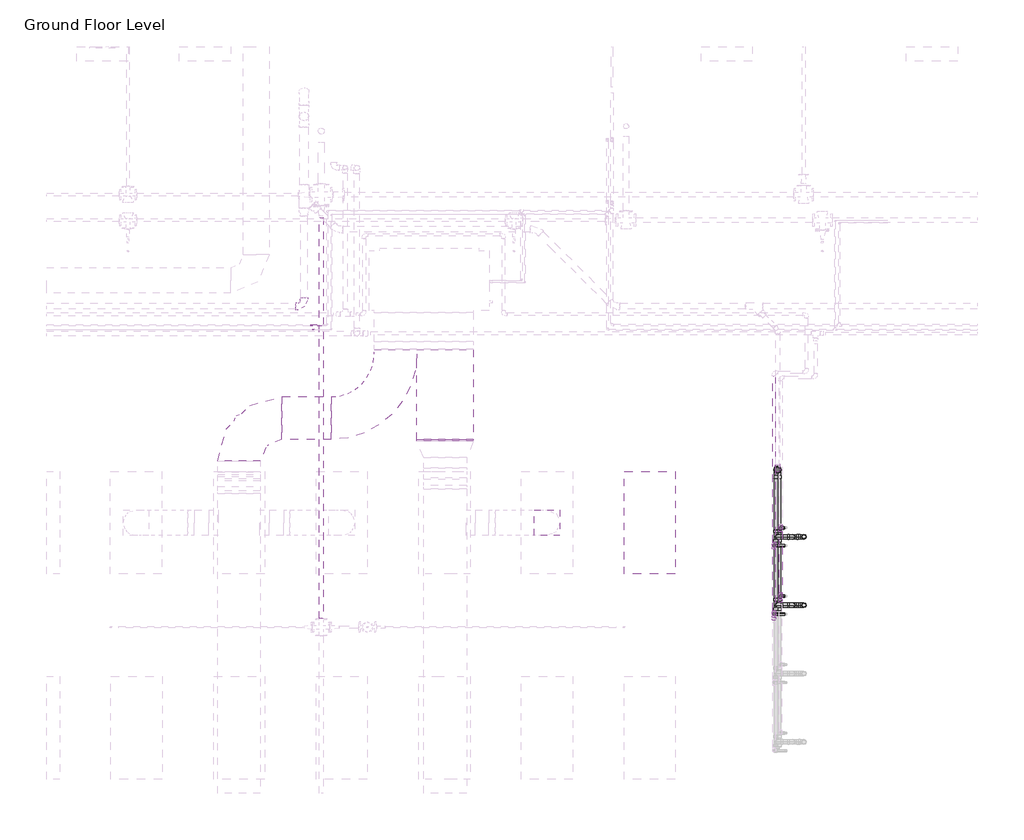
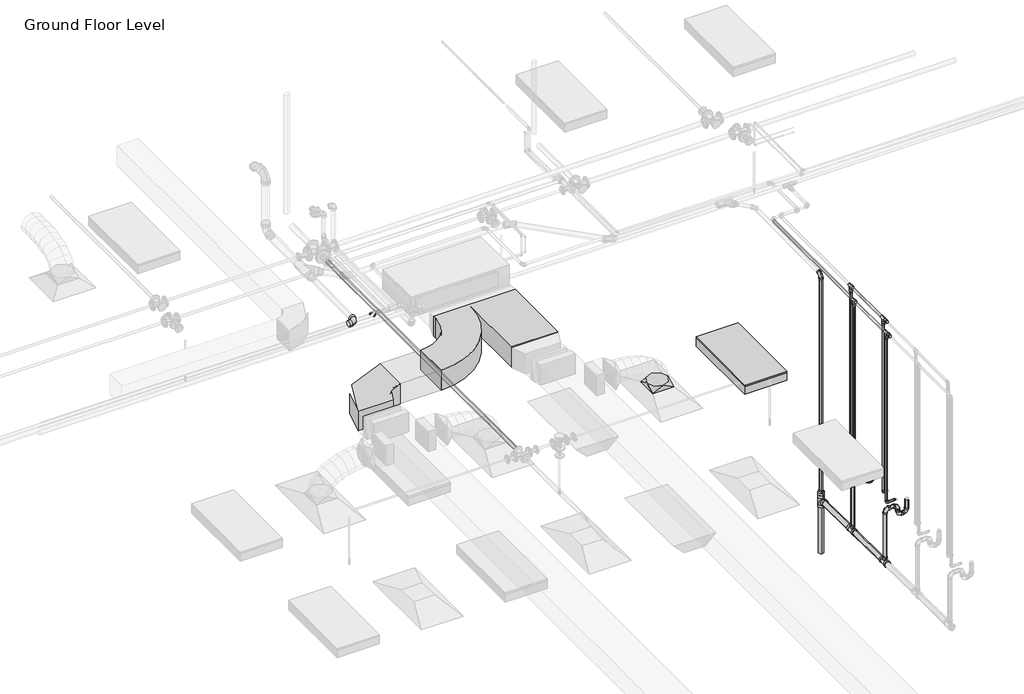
# One storey, part 51 of 72: 32 pipe fittings, 30 pipe segments, 3 duct fittings, 2 duct segments, 1 light fixture.
"""IFC4 building model written with IfcOpenShell, lengths in millimetres."""

from ifc_helpers import new_model, si_unit, point, frame, frame_2d, origin, place, context, project, spatial, polyline, circle_curve, trimmed, segment, composite_curve, outline, extrude, transform, mapped, element, save
from components import m_rectangular_elbow_radius_1_w_abe20169, m_rectangular_wye_smooth_radius_standard_737174da, m_rectangular_to_round_transition_angle_45_degree_641efff0, m_troffer_light_parabolic_rectangular1_0600x1200mm_4_lamp_86473d4a, m_bend_pvc_sch_40_dwv_standard_1e7bdcc1, m_bend_pvc_sch_40_dwv_standard_738aab8b, m_bend_pvc_sch_40_dwv_standard_33e831c1, m_elbow_generic_standard_2a704253, m_elbow_generic_standard_65e6739a, m_reducer_pvc_sch_40_dwv_standard_d6f2da47, m_tee_reducing_sanitary_pvc_sch_40_dwv_standard_21d2848c, m_tee_reducing_sanitary_pvc_sch_40_dwv_standard_b574f8c1, standard_b266ab3f, standard_72b35c3b, standard_e954f56a, standard_e5aa6446

model = new_model("IFC4")

# Units and contexts
model_context = context("Model", 3, world=origin())
ifc_project = project(units=[si_unit("LENGTHUNIT", "METRE", prefix="MILLI")], contexts=[model_context])

# Site, building, storey
site = spatial("IfcSite", under=ifc_project)
building = spatial("IfcBuilding", under=site)
storey = spatial("IfcBuildingStorey", under=building, Name="Ground Floor Level", Elevation=900.0)

# Duct fittings
placement = place(None, origin())
m_rectangular_elbow_radius_1_w_shape = m_rectangular_elbow_radius_1_w_abe20169(model_context)
element("IfcDuctFitting", 1, ObjectType="M_Rectangular Elbow - Radius : 1 W", at=placement, inside=storey, context=model_context, shape_type="MappedRepresentation", body=[
    mapped(m_rectangular_elbow_radius_1_w_shape, transform((-6939.6912607, 12459.4153535, 4107.1399598), x_axis=(-0.9999999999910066, 0.0, 4.2410714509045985e-06), y_axis=(0.0, -1.0, 0.0), z_axis=(4.2410714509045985e-06, 0.0, 0.9999999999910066))),
])
m_rectangular_wye_smooth_radius_standard_shape = m_rectangular_wye_smooth_radius_standard_737174da(model_context)
element("IfcDuctFitting", 2, ObjectType="M_Rectangular Wye - Smooth Radius : Standard", at=placement, inside=storey, context=model_context, shape_type="MappedRepresentation", body=[
    mapped(m_rectangular_wye_smooth_radius_standard_shape, transform((-4653.6910789, 12459.4153535, 4107.1353795), x_axis=(0.0, -0.9999999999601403, -8.928571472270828e-06), y_axis=(1.0, 0.0, 0.0), z_axis=(0.0, -8.928571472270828e-06, 0.9999999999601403))),
])
m_rectangular_to_round_transition_angle_45_degree_shape = m_rectangular_to_round_transition_angle_45_degree_641efff0(model_context)
element("IfcDuctFitting", 3, ObjectType="M_Rectangular to Round Transition - Angle : 45 Degree", at=placement, inside=storey, context=model_context, shape_type="MappedRepresentation", body=[
    mapped(m_rectangular_to_round_transition_angle_45_degree_shape, transform((-3337.2327605, 11235.2153534, 3751.6), x_axis=(0.0, 0.0, 1.0), y_axis=(-1.0, 0.0, 0.0), z_axis=(0.0, -1.0, 0.0))),
])

# Duct segments
element("IfcDuctSegment", 4, ObjectType="Radius Elbows / Taps", at=placement, inside=storey, context=model_context, shape_type="SweptSolid", body=[
    extrude(outline(polyline([(-4859.6910789, 12209.4153535), (-4197.6910789, 12209.4153535), (-4197.6910789, 12192.414605), (-4859.6910789, 12192.414605), (-4859.6910789, 12209.4153535)])), frame((0.0, 0.0, 3957.1331473), z_axis=(0.0, 0.0, 1.0), x_axis=(1.0, 0.0, 0.0)), (0.0, 0.0, 1.0), 300.0),
])
element("IfcDuctSegment", 5, ObjectType="Radius Elbows / Taps", at=placement, inside=storey, context=model_context, shape_type="SweptSolid", body=[
    extrude(outline(polyline([(-5859.6910789, 12709.4153535), (-5859.6910789, 12209.4153535), (-6439.6912607, 12209.4153535), (-6439.6912607, 12709.4153535), (-5859.6910789, 12709.4153535)])), frame((0.0, 0.0, 3957.1353795), z_axis=(0.0, 0.0, 1.0), x_axis=(1.0, 0.0, 0.0)), (0.0, 0.0, 1.0), 300.0),
])

# Light fixture
m_troffer_light_parabolic_rectangular1_0600x1200mm_4_lamp_shape = m_troffer_light_parabolic_rectangular1_0600x1200mm_4_lamp_86473d4a(model_context)
element("IfcLightFixture", 6, ObjectType="M_Troffer Light - Parabolic Rectangular1 : 0600x1200mm(4 Lamp) - 277V 2", at=placement, inside=storey, context=model_context, shape_type="MappedRepresentation", body=[
    mapped(m_troffer_light_parabolic_rectangular1_0600x1200mm_4_lamp_shape, transform((-2196.6986926, 11253.918855, 3650.0), x_axis=(0.0, 1.0, 0.0), y_axis=(-1.0, 0.0, 0.0), z_axis=(0.0, 0.0, 1.0))),
])

# Pipe fittings
m_bend_pvc_sch_40_dwv_standard_shape = m_bend_pvc_sch_40_dwv_standard_1e7bdcc1(model_context)
element("IfcPipeFitting", 7, ObjectType="M_Bend - PVC - Sch 40 - DWV : Standard", at=placement, inside=storey, context=model_context, shape_type="MappedRepresentation", body=[
    mapped(m_bend_pvc_sch_40_dwv_standard_shape, transform((-642.2357232, 11855.5503966, 4093.773994), x_axis=(0.0, 0.0, 1.0), y_axis=(0.0, 1.0, 0.0), z_axis=(-1.0, 0.0, 0.0))),
])
m_bend_pvc_sch_40_dwv_standard_2_shape = m_bend_pvc_sch_40_dwv_standard_738aab8b(model_context)
element("IfcPipeFitting", 8, ObjectType="M_Bend - PVC - Sch 40 - DWV : Standard", at=placement, inside=storey, context=model_context, shape_type="MappedRepresentation", body=[
    mapped(m_bend_pvc_sch_40_dwv_standard_2_shape, transform((-463.6645494, 10271.1979139, 1370.0), x_axis=(-1.0, 0.0, 0.0), y_axis=(0.0, 0.0, 1.0), z_axis=(0.0, 1.0, 0.0))),
])
element("IfcPipeFitting", 9, ObjectType="M_Bend - PVC - Sch 40 - DWV : Standard", at=placement, inside=storey, context=model_context, shape_type="MappedRepresentation", body=[
    mapped(m_bend_pvc_sch_40_dwv_standard_2_shape, transform((-463.6645494, 10271.1979139, 1510.0), x_axis=(0.0, 0.0, 1.0), y_axis=(-1.0, 0.0, 0.0), z_axis=(0.0, -1.0, 0.0))),
])
element("IfcPipeFitting", 10, ObjectType="M_Bend - PVC - Sch 40 - DWV : Standard", at=placement, inside=storey, context=model_context, shape_type="MappedRepresentation", body=[
    mapped(m_bend_pvc_sch_40_dwv_standard_2_shape, transform((-463.6645494, 11071.1979139, 1370.0), x_axis=(-1.0, 0.0, 0.0), y_axis=(0.0, 0.0, 1.0), z_axis=(0.0, 1.0, 0.0))),
])
element("IfcPipeFitting", 11, ObjectType="M_Bend - PVC - Sch 40 - DWV : Standard", at=placement, inside=storey, context=model_context, shape_type="MappedRepresentation", body=[
    mapped(m_bend_pvc_sch_40_dwv_standard_2_shape, transform((-463.6645494, 11071.1979139, 1510.0), x_axis=(0.0, 0.0, 1.0), y_axis=(-1.0, 0.0, 0.0), z_axis=(0.0, -1.0, 0.0))),
])
element("IfcPipeFitting", 12, ObjectType="M_Bend - PVC - Sch 40 - DWV : Standard", at=placement, inside=storey, context=model_context, shape_type="MappedRepresentation", body=[
    mapped(m_bend_pvc_sch_40_dwv_standard_2_shape, transform((-333.6645494, 10271.1979139, 1370.0), x_axis=(1.0, 0.0, 0.0), y_axis=(0.0, 0.0, 1.0), z_axis=(0.0, -1.0, 0.0))),
])
element("IfcPipeFitting", 13, ObjectType="M_Bend - PVC - Sch 40 - DWV : Standard", at=placement, inside=storey, context=model_context, shape_type="MappedRepresentation", body=[
    mapped(m_bend_pvc_sch_40_dwv_standard_2_shape, transform((-333.6645494, 11071.1979139, 1370.0), x_axis=(1.0, 0.0, 0.0), y_axis=(0.0, 0.0, 1.0), z_axis=(0.0, -1.0, 0.0))),
])
element("IfcPipeFitting", 14, ObjectType="M_Bend - PVC - Sch 40 - DWV : Standard", at=placement, inside=storey, context=model_context, shape_type="MappedRepresentation", body=[
    mapped(m_bend_pvc_sch_40_dwv_standard_2_shape, transform((-642.2301761, 10271.1979139, 1510.0), x_axis=(-1.0, 0.0, 0.0), y_axis=(0.0, 0.0, -1.0), z_axis=(0.0, -1.0, 0.0))),
])
element("IfcPipeFitting", 15, ObjectType="M_Bend - PVC - Sch 40 - DWV : Standard", at=placement, inside=storey, context=model_context, shape_type="MappedRepresentation", body=[
    mapped(m_bend_pvc_sch_40_dwv_standard_2_shape, transform((-642.2301761, 11071.1979139, 1510.0), x_axis=(-1.0, 0.0, 0.0), y_axis=(0.0, 0.0, -1.0), z_axis=(0.0, -1.0, 0.0))),
])
m_bend_pvc_sch_40_dwv_standard_3_shape = m_bend_pvc_sch_40_dwv_standard_33e831c1(model_context)
element("IfcPipeFitting", 16, ObjectType="M_Bend - PVC - Sch 40 - DWV : Standard", at=placement, inside=storey, context=model_context, shape_type="MappedRepresentation", body=[
    mapped(m_bend_pvc_sch_40_dwv_standard_3_shape, transform((-6179.174125, 13768.8048932, 4156.9282537), x_axis=(0.9999500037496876, 0.0, 0.00999950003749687), y_axis=(-9.998500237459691e-05, 0.999950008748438, 0.009998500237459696), z_axis=(-0.009999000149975, -0.009999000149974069, 0.9999000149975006))),
])
m_elbow_generic_standard_shape = m_elbow_generic_standard_2a704253(model_context)
element("IfcPipeFitting", 17, ObjectType="M_Elbow - Generic : Standard", at=placement, inside=storey, context=model_context, shape_type="MappedRepresentation", body=[
    mapped(m_elbow_generic_standard_shape, transform((-6064.340603, 13494.0185138, 4393.0), x_axis=(-1.0, 0.0, 0.0), y_axis=(0.0, 0.0, -1.0), z_axis=(0.0, -1.0, 0.0))),
])
element("IfcPipeFitting", 18, ObjectType="M_Elbow - Generic : Standard", at=placement, inside=storey, context=model_context, shape_type="MappedRepresentation", body=[
    mapped(m_elbow_generic_standard_shape, transform((-6064.340603, 13494.0185138, 4365.0), x_axis=(0.0, 0.0, -1.0), y_axis=(-1.0, 0.0, 0.0), z_axis=(0.0, 1.0, 0.0))),
])
m_elbow_generic_standard_2_shape = m_elbow_generic_standard_65e6739a(model_context)
element("IfcPipeFitting", 19, ObjectType="M_Elbow - Generic : Standard", at=placement, inside=storey, context=model_context, shape_type="MappedRepresentation", body=[
    mapped(m_elbow_generic_standard_2_shape, transform((-6100.1387432, 13545.2153534, 4380.0), x_axis=(1.0, 0.0, 0.0), y_axis=(0.0, 0.0, 1.0), z_axis=(0.0, -1.0, 0.0))),
])
element("IfcPipeFitting", 20, ObjectType="M_Elbow - Generic : Standard", at=placement, inside=storey, context=model_context, shape_type="MappedRepresentation", body=[
    mapped(m_elbow_generic_standard_2_shape, transform((-6088.1387432, 13545.2153534, 4392.0), x_axis=(-1.0, 0.0, 0.0), y_axis=(0.0, 0.0, -1.0), z_axis=(0.0, -1.0, 0.0))),
])
m_reducer_pvc_sch_40_dwv_standard_shape = m_reducer_pvc_sch_40_dwv_standard_d6f2da47(model_context)
element("IfcPipeFitting", 21, ObjectType="M_Reducer - PVC - Sch 40 - DWV : Standard", at=placement, inside=storey, context=model_context, shape_type="MappedRepresentation", body=[
    mapped(m_reducer_pvc_sch_40_dwv_standard_shape, transform((-642.2301761, 11855.5442121, 776.9463422), x_axis=(0.0, 0.0, 1.0), y_axis=(0.0, 1.0, 0.0), z_axis=(-1.0, 0.0, 0.0))),
])
m_tee_reducing_sanitary_pvc_sch_40_dwv_standard_shape = m_tee_reducing_sanitary_pvc_sch_40_dwv_standard_21d2848c(model_context)
element("IfcPipeFitting", 22, ObjectType="M_Tee Reducing Sanitary - PVC - Sch 40 - DWV : Standard", at=placement, inside=storey, context=model_context, shape_type="MappedRepresentation", body=[
    mapped(m_tee_reducing_sanitary_pvc_sch_40_dwv_standard_shape, transform((-642.2301761, 10271.1979139, 711.098886), x_axis=(0.0, -0.9999500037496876, 0.009999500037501), y_axis=(0.0, -0.009999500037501, -0.9999500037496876), z_axis=(1.0, 0.0, 0.0))),
])
element("IfcPipeFitting", 23, ObjectType="M_Tee Reducing Sanitary - PVC - Sch 40 - DWV : Standard", at=placement, inside=storey, context=model_context, shape_type="MappedRepresentation", body=[
    mapped(m_tee_reducing_sanitary_pvc_sch_40_dwv_standard_shape, transform((-642.2301761, 11071.1979139, 703.098886), x_axis=(0.0, -0.9999500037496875, 0.00999950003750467), y_axis=(0.0, -0.00999950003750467, -0.9999500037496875), z_axis=(1.0, 0.0, 0.0))),
])
m_tee_reducing_sanitary_pvc_sch_40_dwv_standard_2_shape = m_tee_reducing_sanitary_pvc_sch_40_dwv_standard_b574f8c1(model_context)
element("IfcPipeFitting", 24, ObjectType="M_Tee Reducing Sanitary - PVC - Sch 40 - DWV : Standard", at=placement, inside=storey, context=model_context, shape_type="MappedRepresentation", body=[
    mapped(m_tee_reducing_sanitary_pvc_sch_40_dwv_standard_2_shape, transform((-642.2301761, 11855.5442121, 695.255423), x_axis=(0.0, 0.0, 1.0), y_axis=(0.0, 1.0, 0.0), z_axis=(-1.0, 0.0, 0.0))),
])
standard_shape = standard_b266ab3f(model_context)
element("IfcPipeFitting", 25, ObjectType="M_Elbow - CPVC - Sch 40 : Standard", at=placement, inside=storey, context=model_context, shape_type="MappedRepresentation", body=[
    mapped(standard_shape, transform((-607.2327605, 11175.5128345, 1690.0), x_axis=(-1.0, 0.0, 0.0), y_axis=(0.0, 0.0, 1.0), z_axis=(0.0, 1.0, 0.0))),
])
element("IfcPipeFitting", 26, ObjectType="M_Elbow - CPVC - Sch 40 : Standard", at=placement, inside=storey, context=model_context, shape_type="MappedRepresentation", body=[
    mapped(standard_shape, transform((-607.2327605, 10375.5128345, 1690.0), x_axis=(0.0, 0.0, -1.0), y_axis=(1.0, 0.0, 0.0), z_axis=(0.0, -1.0, 0.0))),
])
element("IfcPipeFitting", 27, ObjectType="M_Elbow - CPVC - Sch 40 : Standard", at=placement, inside=storey, context=model_context, shape_type="MappedRepresentation", body=[
    mapped(standard_shape, transform((-684.0671674, 10166.8829933, 1690.0), x_axis=(-1.0, 0.0, 0.0), y_axis=(0.0, 0.0, 1.0), z_axis=(0.0, 1.0, 0.0))),
])
element("IfcPipeFitting", 28, ObjectType="M_Elbow - CPVC - Sch 40 : Standard", at=placement, inside=storey, context=model_context, shape_type="MappedRepresentation", body=[
    mapped(standard_shape, transform((-684.0671674, 10966.8829933, 1690.0), x_axis=(-1.0, 0.0, 0.0), y_axis=(0.0, 0.0, 1.0), z_axis=(0.0, 1.0, 0.0))),
])
standard_2_shape = standard_72b35c3b(model_context)
element("IfcPipeFitting", 29, ObjectType="M_Tee - CPVC - Sch 40 : Standard", at=placement, inside=storey, context=model_context, shape_type="MappedRepresentation", body=[
    mapped(standard_2_shape, transform((-607.2327605, 11175.5128345, 4315.0), x_axis=(0.0, -1.0, 0.0), y_axis=(0.0, 0.0, 1.0), z_axis=(-1.0, 0.0, 0.0))),
])
element("IfcPipeFitting", 30, ObjectType="M_Tee - CPVC - Sch 40 : Standard", at=placement, inside=storey, context=model_context, shape_type="MappedRepresentation", body=[
    mapped(standard_2_shape, transform((-607.2327605, 10375.5128345, 4315.0), x_axis=(0.0, 1.0, 0.0), y_axis=(0.0, 0.0, 1.0), z_axis=(1.0, 0.0, 0.0))),
])
element("IfcPipeFitting", 31, ObjectType="M_Tee - CPVC - Sch 40 : Standard", at=placement, inside=storey, context=model_context, shape_type="MappedRepresentation", body=[
    mapped(standard_2_shape, transform((-684.0671674, 10166.8829933, 4250.0), x_axis=(0.0, -1.0, 0.0), y_axis=(0.0, 0.0, 1.0), z_axis=(-1.0, 0.0, 0.0))),
])
element("IfcPipeFitting", 32, ObjectType="M_Tee - CPVC - Sch 40 : Standard", at=placement, inside=storey, context=model_context, shape_type="MappedRepresentation", body=[
    mapped(standard_2_shape, transform((-684.0671674, 10966.8829933, 4250.0), x_axis=(0.0, -1.0, 0.0), y_axis=(0.0, 0.0, 1.0), z_axis=(-1.0, 0.0, 0.0))),
])
standard_3_shape = standard_e954f56a(model_context)
element("IfcPipeFitting", 33, ObjectType="M_Coupling Reducing - CPVC - Sch 40 : Standard", at=placement, inside=storey, context=model_context, shape_type="MappedRepresentation", body=[
    mapped(standard_3_shape, transform((-607.2327605, 10335.8126345, 4315.0), x_axis=(0.0, -1.0, 0.0), y_axis=(1.0, 0.0, 0.0), z_axis=(0.0, 0.0, 1.0))),
])
element("IfcPipeFitting", 34, ObjectType="M_Coupling Reducing - CPVC - Sch 40 : Standard", at=placement, inside=storey, context=model_context, shape_type="MappedRepresentation", body=[
    mapped(standard_3_shape, transform((-607.2327605, 10375.5128345, 4275.2998), x_axis=(0.0, 0.0, -1.0), y_axis=(0.0, -1.0, 0.0), z_axis=(-1.0, 0.0, 0.0))),
])
element("IfcPipeFitting", 35, ObjectType="M_Coupling Reducing - CPVC - Sch 40 : Standard", at=placement, inside=storey, context=model_context, shape_type="MappedRepresentation", body=[
    mapped(standard_3_shape, transform((-684.0671674, 10166.8829933, 4210.2998), x_axis=(0.0, 0.0, -1.0), y_axis=(-1.0, 0.0, 0.0), z_axis=(0.0, 1.0, 0.0))),
])
element("IfcPipeFitting", 36, ObjectType="M_Coupling Reducing - CPVC - Sch 40 : Standard", at=placement, inside=storey, context=model_context, shape_type="MappedRepresentation", body=[
    mapped(standard_3_shape, transform((-684.0671674, 10966.8829933, 4210.2998), x_axis=(0.0, 0.0, -1.0), y_axis=(-1.0, 0.0, 0.0), z_axis=(0.0, 1.0, 0.0))),
])
standard_4_shape = standard_e5aa6446(model_context)
element("IfcPipeFitting", 37, ObjectType="M_Coupling Reducing - CPVC - Sch 40 : Standard", at=placement, inside=storey, context=model_context, shape_type="MappedRepresentation", body=[
    mapped(standard_4_shape, transform((-607.2327605, 11175.5128345, 4275.2998), x_axis=(0.0, 0.0, -1.0), y_axis=(1.0, 0.0, 0.0), z_axis=(0.0, -1.0, 0.0))),
])
element("IfcPipeFitting", 38, ObjectType="M_Coupling Reducing - CPVC - Sch 40 : Standard", at=placement, inside=storey, context=model_context, shape_type="MappedRepresentation", body=[
    mapped(standard_4_shape, transform((-684.0671674, 10127.1827933, 4250.0), x_axis=(0.0, -1.0, 0.0), y_axis=(1.0, 0.0, 0.0), z_axis=(0.0, 0.0, 1.0))),
])

# Pipe segments
element("IfcPipeSegment", 39, ObjectType="CPVC", at=placement, inside=storey, context=model_context, shape_type="SweptSolid", body=[
    extrude(outline(composite_curve([segment(trimmed(circle_curve(frame_2d((11175.5128345, 1690.0)), 13.335), [point((11188.8478345, 1690.0))], [point((11175.5128345, 1676.665))], False, "CARTESIAN"), True, "CONTINUOUS"), segment(trimmed(circle_curve(frame_2d((11175.5128345, 1690.0)), 13.335), [point((11175.5128345, 1676.665))], [point((11162.1778345, 1690.0))], False, "CARTESIAN"), True, "CONTINUOUS"), segment(trimmed(circle_curve(frame_2d((11175.5128345, 1690.0)), 13.335), [point((11162.1778345, 1690.0))], [point((11175.5128345, 1703.335))], False, "CARTESIAN"), True, "CONTINUOUS"), segment(trimmed(circle_curve(frame_2d((11175.5128345, 1690.0)), 13.335), [point((11175.5128345, 1703.335))], [point((11188.8478345, 1690.0))], False, "CARTESIAN"), True, "CONTINUOUS")], self_intersect=False)), frame((-571.9077105, 0.0, 0.0), z_axis=(1.0, 0.0, 0.0), x_axis=(0.0, 1.0, 0.0)), (0.0, 0.0, 1.0), 14.67495),
])
element("IfcPipeSegment", 40, ObjectType="CPVC", at=placement, inside=storey, context=model_context, shape_type="SweptSolid", body=[
    extrude(outline(composite_curve([segment(trimmed(circle_curve(frame_2d((-607.2327605, 11175.5128345)), 13.335), [point((-620.5677605, 11175.5128345))], [point((-607.2327605, 11188.8478345))], False, "CARTESIAN"), True, "CONTINUOUS"), segment(trimmed(circle_curve(frame_2d((-607.2327605, 11175.5128345)), 13.335), [point((-607.2327605, 11188.8478345))], [point((-593.8977605, 11175.5128345))], False, "CARTESIAN"), True, "CONTINUOUS"), segment(trimmed(circle_curve(frame_2d((-607.2327605, 11175.5128345)), 13.335), [point((-593.8977605, 11175.5128345))], [point((-607.2327605, 11162.1778345))], False, "CARTESIAN"), True, "CONTINUOUS"), segment(trimmed(circle_curve(frame_2d((-607.2327605, 11175.5128345)), 13.335), [point((-607.2327605, 11162.1778345))], [point((-620.5677605, 11175.5128345))], False, "CARTESIAN"), True, "CONTINUOUS")], self_intersect=False)), frame((0.0, 0.0, 1725.32505), z_axis=(0.0, 0.0, 1.0), x_axis=(1.0, 0.0, 0.0)), (0.0, 0.0, 1.0), 2492.82475),
])
element("IfcPipeSegment", 41, ObjectType="CPVC", at=placement, inside=storey, context=model_context, shape_type="SweptSolid", body=[
    extrude(outline(composite_curve([segment(trimmed(circle_curve(frame_2d((10375.5128345, 1690.0)), 13.335), [point((10362.1778345, 1690.0))], [point((10375.5128345, 1703.335))], False, "CARTESIAN"), True, "CONTINUOUS"), segment(trimmed(circle_curve(frame_2d((10375.5128345, 1690.0)), 13.335), [point((10375.5128345, 1703.335))], [point((10388.8478345, 1690.0))], False, "CARTESIAN"), True, "CONTINUOUS"), segment(trimmed(circle_curve(frame_2d((10375.5128345, 1690.0)), 13.335), [point((10388.8478345, 1690.0))], [point((10375.5128345, 1676.665))], False, "CARTESIAN"), True, "CONTINUOUS"), segment(trimmed(circle_curve(frame_2d((10375.5128345, 1690.0)), 13.335), [point((10375.5128345, 1676.665))], [point((10362.1778345, 1690.0))], False, "CARTESIAN"), True, "CONTINUOUS")], self_intersect=False)), frame((-571.9077105, 0.0, 0.0), z_axis=(1.0, 0.0, 0.0), x_axis=(0.0, 1.0, 0.0)), (0.0, 0.0, 1.0), 14.67495),
])
element("IfcPipeSegment", 42, ObjectType="CPVC", at=placement, inside=storey, context=model_context, shape_type="SweptSolid", body=[
    extrude(outline(composite_curve([segment(trimmed(circle_curve(frame_2d((-607.2327605, 10375.5128345)), 13.335), [point((-593.8977605, 10375.5128345))], [point((-607.2327605, 10362.1778345))], False, "CARTESIAN"), True, "CONTINUOUS"), segment(trimmed(circle_curve(frame_2d((-607.2327605, 10375.5128345)), 13.335), [point((-607.2327605, 10362.1778345))], [point((-620.5677605, 10375.5128345))], False, "CARTESIAN"), True, "CONTINUOUS"), segment(trimmed(circle_curve(frame_2d((-607.2327605, 10375.5128345)), 13.335), [point((-620.5677605, 10375.5128345))], [point((-607.2327605, 10388.8478345))], False, "CARTESIAN"), True, "CONTINUOUS"), segment(trimmed(circle_curve(frame_2d((-607.2327605, 10375.5128345)), 13.335), [point((-607.2327605, 10388.8478345))], [point((-593.8977605, 10375.5128345))], False, "CARTESIAN"), True, "CONTINUOUS")], self_intersect=False)), frame((0.0, 0.0, 1725.32505), z_axis=(0.0, 0.0, 1.0), x_axis=(1.0, 0.0, 0.0)), (0.0, 0.0, 1.0), 2492.82475),
])
element("IfcPipeSegment", 43, ObjectType="CPVC", at=placement, inside=storey, context=model_context, shape_type="SweptSolid", body=[
    extrude(outline(composite_curve([segment(trimmed(circle_curve(frame_2d((4315.0, -607.2327605)), 16.7005), [point((4315.0, -623.9332605))], [point((4298.2995, -607.2327605))], False, "CARTESIAN"), True, "CONTINUOUS"), segment(trimmed(circle_curve(frame_2d((4315.0, -607.2327605)), 16.7005), [point((4298.2995, -607.2327605))], [point((4315.0, -590.5322605))], False, "CARTESIAN"), True, "CONTINUOUS"), segment(trimmed(circle_curve(frame_2d((4315.0, -607.2327605)), 16.7005), [point((4315.0, -590.5322605))], [point((4331.7005, -607.2327605))], False, "CARTESIAN"), True, "CONTINUOUS"), segment(trimmed(circle_curve(frame_2d((4315.0, -607.2327605)), 16.7005), [point((4331.7005, -607.2327605))], [point((4315.0, -623.9332605))], False, "CARTESIAN"), True, "CONTINUOUS")], self_intersect=False)), frame((0.0, 10415.2130345, 0.0), z_axis=(0.0, 1.0, 0.0), x_axis=(0.0, 0.0, 1.0)), (0.0, 0.0, 1.0), 720.5996),
])
element("IfcPipeSegment", 44, ObjectType="CPVC", at=placement, inside=storey, context=model_context, shape_type="SweptSolid", body=[
    extrude(outline(composite_curve([segment(trimmed(circle_curve(frame_2d((10166.8829933, 1690.0)), 13.335), [point((10180.2179933, 1690.0))], [point((10166.8829933, 1676.665))], False, "CARTESIAN"), True, "CONTINUOUS"), segment(trimmed(circle_curve(frame_2d((10166.8829933, 1690.0)), 13.335), [point((10166.8829933, 1676.665))], [point((10153.5479933, 1690.0))], False, "CARTESIAN"), True, "CONTINUOUS"), segment(trimmed(circle_curve(frame_2d((10166.8829933, 1690.0)), 13.335), [point((10153.5479933, 1690.0))], [point((10166.8829933, 1703.335))], False, "CARTESIAN"), True, "CONTINUOUS"), segment(trimmed(circle_curve(frame_2d((10166.8829933, 1690.0)), 13.335), [point((10166.8829933, 1703.335))], [point((10180.2179933, 1690.0))], False, "CARTESIAN"), True, "CONTINUOUS")], self_intersect=False)), frame((-648.7421174, 0.0, 0.0), z_axis=(1.0, 0.0, 0.0), x_axis=(0.0, 1.0, 0.0)), (0.0, 0.0, 1.0), 91.5093569),
])
element("IfcPipeSegment", 45, ObjectType="CPVC", at=placement, inside=storey, context=model_context, shape_type="SweptSolid", body=[
    extrude(outline(composite_curve([segment(trimmed(circle_curve(frame_2d((-684.0671674, 10166.8829933)), 13.335), [point((-697.4021674, 10166.8829933))], [point((-684.0671674, 10180.2179933))], False, "CARTESIAN"), True, "CONTINUOUS"), segment(trimmed(circle_curve(frame_2d((-684.0671674, 10166.8829933)), 13.335), [point((-684.0671674, 10180.2179933))], [point((-670.7321674, 10166.8829933))], False, "CARTESIAN"), True, "CONTINUOUS"), segment(trimmed(circle_curve(frame_2d((-684.0671674, 10166.8829933)), 13.335), [point((-670.7321674, 10166.8829933))], [point((-684.0671674, 10153.5479933))], False, "CARTESIAN"), True, "CONTINUOUS"), segment(trimmed(circle_curve(frame_2d((-684.0671674, 10166.8829933)), 13.335), [point((-684.0671674, 10153.5479933))], [point((-697.4021674, 10166.8829933))], False, "CARTESIAN"), True, "CONTINUOUS")], self_intersect=False)), frame((0.0, 0.0, 1725.32505), z_axis=(0.0, 0.0, 1.0), x_axis=(1.0, 0.0, 0.0)), (0.0, 0.0, 1.0), 2427.82475),
])
element("IfcPipeSegment", 46, ObjectType="CPVC", at=placement, inside=storey, context=model_context, shape_type="SweptSolid", body=[
    extrude(outline(composite_curve([segment(trimmed(circle_curve(frame_2d((10966.8829933, 1690.0)), 13.335), [point((10980.2179933, 1690.0))], [point((10966.8829933, 1676.665))], False, "CARTESIAN"), True, "CONTINUOUS"), segment(trimmed(circle_curve(frame_2d((10966.8829933, 1690.0)), 13.335), [point((10966.8829933, 1676.665))], [point((10953.5479933, 1690.0))], False, "CARTESIAN"), True, "CONTINUOUS"), segment(trimmed(circle_curve(frame_2d((10966.8829933, 1690.0)), 13.335), [point((10953.5479933, 1690.0))], [point((10966.8829933, 1703.335))], False, "CARTESIAN"), True, "CONTINUOUS"), segment(trimmed(circle_curve(frame_2d((10966.8829933, 1690.0)), 13.335), [point((10966.8829933, 1703.335))], [point((10980.2179933, 1690.0))], False, "CARTESIAN"), True, "CONTINUOUS")], self_intersect=False)), frame((-648.7421174, 0.0, 0.0), z_axis=(1.0, 0.0, 0.0), x_axis=(0.0, 1.0, 0.0)), (0.0, 0.0, 1.0), 91.5093569),
])
element("IfcPipeSegment", 47, ObjectType="CPVC", at=placement, inside=storey, context=model_context, shape_type="SweptSolid", body=[
    extrude(outline(composite_curve([segment(trimmed(circle_curve(frame_2d((-684.0671674, 10966.8829933)), 13.335), [point((-697.4021674, 10966.8829933))], [point((-684.0671674, 10980.2179933))], False, "CARTESIAN"), True, "CONTINUOUS"), segment(trimmed(circle_curve(frame_2d((-684.0671674, 10966.8829933)), 13.335), [point((-684.0671674, 10980.2179933))], [point((-670.7321674, 10966.8829933))], False, "CARTESIAN"), True, "CONTINUOUS"), segment(trimmed(circle_curve(frame_2d((-684.0671674, 10966.8829933)), 13.335), [point((-670.7321674, 10966.8829933))], [point((-684.0671674, 10953.5479933))], False, "CARTESIAN"), True, "CONTINUOUS"), segment(trimmed(circle_curve(frame_2d((-684.0671674, 10966.8829933)), 13.335), [point((-684.0671674, 10953.5479933))], [point((-697.4021674, 10966.8829933))], False, "CARTESIAN"), True, "CONTINUOUS")], self_intersect=False)), frame((0.0, 0.0, 1725.32505), z_axis=(0.0, 0.0, 1.0), x_axis=(1.0, 0.0, 0.0)), (0.0, 0.0, 1.0), 2427.82475),
])
element("IfcPipeSegment", 48, ObjectType="CPVC", at=placement, inside=storey, context=model_context, shape_type="SweptSolid", body=[
    extrude(outline(composite_curve([segment(trimmed(circle_curve(frame_2d((4250.0, -684.0671674)), 16.7005), [point((4250.0, -667.3666674))], [point((4266.7005, -684.0671674))], False, "CARTESIAN"), True, "CONTINUOUS"), segment(trimmed(circle_curve(frame_2d((4250.0, -684.0671674)), 16.7005), [point((4266.7005, -684.0671674))], [point((4250.0, -700.7676674))], False, "CARTESIAN"), True, "CONTINUOUS"), segment(trimmed(circle_curve(frame_2d((4250.0, -684.0671674)), 16.7005), [point((4250.0, -700.7676674))], [point((4233.2995, -684.0671674))], False, "CARTESIAN"), True, "CONTINUOUS"), segment(trimmed(circle_curve(frame_2d((4250.0, -684.0671674)), 16.7005), [point((4233.2995, -684.0671674))], [point((4250.0, -667.3666674))], False, "CARTESIAN"), True, "CONTINUOUS")], self_intersect=False)), frame((0.0, 11006.5831933, 0.0), z_axis=(0.0, 1.0, 0.0), x_axis=(0.0, 0.0, 1.0)), (0.0, 0.0, 1.0), 1945.3696101),
])
element("IfcPipeSegment", 49, ObjectType="CPVC", at=placement, inside=storey, context=model_context, shape_type="SweptSolid", body=[
    extrude(outline(composite_curve([segment(trimmed(circle_curve(frame_2d((4250.0, -684.0671674)), 16.7005), [point((4250.0, -667.3666674))], [point((4266.7005, -684.0671674))], False, "CARTESIAN"), True, "CONTINUOUS"), segment(trimmed(circle_curve(frame_2d((4250.0, -684.0671674)), 16.7005), [point((4266.7005, -684.0671674))], [point((4250.0, -700.7676674))], False, "CARTESIAN"), True, "CONTINUOUS"), segment(trimmed(circle_curve(frame_2d((4250.0, -684.0671674)), 16.7005), [point((4250.0, -700.7676674))], [point((4233.2995, -684.0671674))], False, "CARTESIAN"), True, "CONTINUOUS"), segment(trimmed(circle_curve(frame_2d((4250.0, -684.0671674)), 16.7005), [point((4233.2995, -684.0671674))], [point((4250.0, -667.3666674))], False, "CARTESIAN"), True, "CONTINUOUS")], self_intersect=False)), frame((0.0, 10206.5831933, 0.0), z_axis=(0.0, 1.0, 0.0), x_axis=(0.0, 0.0, 1.0)), (0.0, 0.0, 1.0), 720.5996),
])
element("IfcPipeSegment", 50, ObjectType="Copper", at=placement, inside=storey, context=model_context, shape_type="SweptSolid", body=[
    extrude(outline(composite_curve([segment(trimmed(circle_curve(frame_2d((13545.2153534, 4392.0)), 6.5), [point((13538.7153534, 4392.0))], [point((13545.2153534, 4398.5))], False, "CARTESIAN"), True, "CONTINUOUS"), segment(trimmed(circle_curve(frame_2d((13545.2153534, 4392.0)), 6.5), [point((13545.2153534, 4398.5))], [point((13551.7153534, 4392.0))], False, "CARTESIAN"), True, "CONTINUOUS"), segment(trimmed(circle_curve(frame_2d((13545.2153534, 4392.0)), 6.5), [point((13551.7153534, 4392.0))], [point((13545.2153534, 4385.5))], False, "CARTESIAN"), True, "CONTINUOUS"), segment(trimmed(circle_curve(frame_2d((13545.2153534, 4392.0)), 6.5), [point((13545.2153534, 4385.5))], [point((13538.7153534, 4392.0))], False, "CARTESIAN"), True, "CONTINUOUS")], self_intersect=False)), frame((-6082.220667, 0.0, 0.0), z_axis=(1.0, 0.0, 0.0), x_axis=(0.0, 1.0, 0.0)), (0.0, 0.0, 1.0), 114.8979305),
])
element("IfcPipeSegment", 51, ObjectType="Copper", at=placement, inside=storey, context=model_context, shape_type="SweptSolid", body=[
    extrude(outline(composite_curve([segment(trimmed(circle_curve(frame_2d((-6064.340603, 13494.0185138)), 3.35), [point((-6060.990603, 13494.0185138))], [point((-6064.340603, 13490.6685138))], False, "CARTESIAN"), True, "CONTINUOUS"), segment(trimmed(circle_curve(frame_2d((-6064.340603, 13494.0185138)), 3.35), [point((-6064.340603, 13490.6685138))], [point((-6067.690603, 13494.0185138))], False, "CARTESIAN"), True, "CONTINUOUS"), segment(trimmed(circle_curve(frame_2d((-6064.340603, 13494.0185138)), 3.35), [point((-6067.690603, 13494.0185138))], [point((-6064.340603, 13497.3685138))], False, "CARTESIAN"), True, "CONTINUOUS"), segment(trimmed(circle_curve(frame_2d((-6064.340603, 13494.0185138)), 3.35), [point((-6064.340603, 13497.3685138))], [point((-6060.990603, 13494.0185138))], False, "CARTESIAN"), True, "CONTINUOUS")], self_intersect=False)), frame((0.0, 0.0, 4376.1375), z_axis=(0.0, 0.0, 1.0), x_axis=(1.0, 0.0, 0.0)), (0.0, 0.0, 1.0), 5.725),
])
element("IfcPipeSegment", 52, ObjectType="Copper", at=placement, inside=storey, context=model_context, shape_type="SweptSolid", body=[
    extrude(outline(composite_curve([segment(trimmed(circle_curve(frame_2d((0.0, 6.5)), 6.5), [point((0.0, 0.0))], [point((-6.5, 6.5))], False, "CARTESIAN"), True, "CONTINUOUS"), segment(trimmed(circle_curve(frame_2d((0.0, 6.5)), 6.5), [point((-6.5, 6.5))], [point((0.0, 13.0))], False, "CARTESIAN"), True, "CONTINUOUS"), segment(trimmed(circle_curve(frame_2d((0.0, 6.5)), 6.5), [point((0.0, 13.0))], [point((6.5, 6.5))], False, "CARTESIAN"), True, "CONTINUOUS"), segment(trimmed(circle_curve(frame_2d((0.0, 6.5)), 6.5), [point((6.5, 6.5))], [point((0.0, 0.0))], False, "CARTESIAN"), True, "CONTINUOUS")], self_intersect=False)), frame((-6095.9540314, 13538.7153534, 4384.1847119), z_axis=(0.7071067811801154, 0.0, 0.7071067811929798), x_axis=(0.7071067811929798, 0.0, -0.7071067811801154)), (0.0, 0.0, 1.0), 5.1344102),
])
element("IfcPipeSegment", 53, ObjectType="PVC - DWV", at=placement, inside=storey, context=model_context, shape_type="SweptSolid", body=[
    extrude(outline(composite_curve([segment(trimmed(circle_curve(frame_2d((0.0, -36.5125)), 36.5125), [point((36.5125, -36.5125))], [point((0.0, -73.025))], False, "CARTESIAN"), True, "CONTINUOUS"), segment(trimmed(circle_curve(frame_2d((0.0, -36.5125)), 36.5125), [point((0.0, -73.025))], [point((-36.5125, -36.5125))], False, "CARTESIAN"), True, "CONTINUOUS"), segment(trimmed(circle_curve(frame_2d((0.0, -36.5125)), 36.5125), [point((-36.5125, -36.5125))], [point((0.0, 0.0))], False, "CARTESIAN"), True, "CONTINUOUS"), segment(trimmed(circle_curve(frame_2d((0.0, -36.5125)), 36.5125), [point((0.0, 0.0))], [point((36.5125, -36.5125))], False, "CARTESIAN"), True, "CONTINUOUS")], self_intersect=False)), frame((-642.2301761, 11755.9463482, 732.7657272), z_axis=(0.0, -0.9999500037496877, 0.009999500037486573), x_axis=(1.0, 0.0, 0.0)), (0.0, 0.0, 1.0), 605.3544271),
])
element("IfcPipeSegment", 54, ObjectType="PVC - DWV", at=placement, inside=storey, context=model_context, shape_type="SweptSolid", body=[
    extrude(outline(composite_curve([segment(trimmed(circle_curve(frame_2d((-333.6645494, 10271.1979139)), 24.13), [point((-357.7945494, 10271.1979139))], [point((-333.6645494, 10295.3279139))], False, "CARTESIAN"), True, "CONTINUOUS"), segment(trimmed(circle_curve(frame_2d((-333.6645494, 10271.1979139)), 24.13), [point((-333.6645494, 10295.3279139))], [point((-309.5345494, 10271.1979139))], False, "CARTESIAN"), True, "CONTINUOUS"), segment(trimmed(circle_curve(frame_2d((-333.6645494, 10271.1979139)), 24.13), [point((-309.5345494, 10271.1979139))], [point((-333.6645494, 10247.0679139))], False, "CARTESIAN"), True, "CONTINUOUS"), segment(trimmed(circle_curve(frame_2d((-333.6645494, 10271.1979139)), 24.13), [point((-333.6645494, 10247.0679139))], [point((-357.7945494, 10271.1979139))], False, "CARTESIAN"), True, "CONTINUOUS")], self_intersect=False)), frame((0.0, 0.0, 1431.8998), z_axis=(0.0, 0.0, 1.0), x_axis=(1.0, 0.0, 0.0)), (0.0, 0.0, 1.0), 118.1002),
])
element("IfcPipeSegment", 55, ObjectType="PVC - DWV", at=placement, inside=storey, context=model_context, shape_type="SweptSolid", body=[
    extrude(outline(composite_curve([segment(trimmed(circle_curve(frame_2d((10271.1979139, 1370.0)), 24.13), [point((10295.3279139, 1370.0))], [point((10271.1979139, 1345.87))], False, "CARTESIAN"), True, "CONTINUOUS"), segment(trimmed(circle_curve(frame_2d((10271.1979139, 1370.0)), 24.13), [point((10271.1979139, 1345.87))], [point((10247.0679139, 1370.0))], False, "CARTESIAN"), True, "CONTINUOUS"), segment(trimmed(circle_curve(frame_2d((10271.1979139, 1370.0)), 24.13), [point((10247.0679139, 1370.0))], [point((10271.1979139, 1394.13))], False, "CARTESIAN"), True, "CONTINUOUS"), segment(trimmed(circle_curve(frame_2d((10271.1979139, 1370.0)), 24.13), [point((10271.1979139, 1394.13))], [point((10295.3279139, 1370.0))], False, "CARTESIAN"), True, "CONTINUOUS")], self_intersect=False)), frame((-401.7647494, 0.0, 0.0), z_axis=(1.0, 0.0, 0.0), x_axis=(0.0, 1.0, 0.0)), (0.0, 0.0, 1.0), 6.2004),
])
element("IfcPipeSegment", 56, ObjectType="PVC - DWV", at=placement, inside=storey, context=model_context, shape_type="SweptSolid", body=[
    extrude(outline(composite_curve([segment(trimmed(circle_curve(frame_2d((-463.6645494, 10271.1979139)), 24.13), [point((-487.7945494, 10271.1979139))], [point((-463.6645494, 10295.3279139))], False, "CARTESIAN"), True, "CONTINUOUS"), segment(trimmed(circle_curve(frame_2d((-463.6645494, 10271.1979139)), 24.13), [point((-463.6645494, 10295.3279139))], [point((-439.5345494, 10271.1979139))], False, "CARTESIAN"), True, "CONTINUOUS"), segment(trimmed(circle_curve(frame_2d((-463.6645494, 10271.1979139)), 24.13), [point((-439.5345494, 10271.1979139))], [point((-463.6645494, 10247.0679139))], False, "CARTESIAN"), True, "CONTINUOUS"), segment(trimmed(circle_curve(frame_2d((-463.6645494, 10271.1979139)), 24.13), [point((-463.6645494, 10247.0679139))], [point((-487.7945494, 10271.1979139))], False, "CARTESIAN"), True, "CONTINUOUS")], self_intersect=False)), frame((0.0, 0.0, 1431.8998), z_axis=(0.0, 0.0, 1.0), x_axis=(1.0, 0.0, 0.0)), (0.0, 0.0, 1.0), 16.2004),
])
element("IfcPipeSegment", 57, ObjectType="PVC - DWV", at=placement, inside=storey, context=model_context, shape_type="SweptSolid", body=[
    extrude(outline(composite_curve([segment(trimmed(circle_curve(frame_2d((10271.1979139, 1510.0)), 24.13), [point((10295.3279139, 1510.0))], [point((10271.1979139, 1485.87))], False, "CARTESIAN"), True, "CONTINUOUS"), segment(trimmed(circle_curve(frame_2d((10271.1979139, 1510.0)), 24.13), [point((10271.1979139, 1485.87))], [point((10247.0679139, 1510.0))], False, "CARTESIAN"), True, "CONTINUOUS"), segment(trimmed(circle_curve(frame_2d((10271.1979139, 1510.0)), 24.13), [point((10247.0679139, 1510.0))], [point((10271.1979139, 1534.13))], False, "CARTESIAN"), True, "CONTINUOUS"), segment(trimmed(circle_curve(frame_2d((10271.1979139, 1510.0)), 24.13), [point((10271.1979139, 1534.13))], [point((10295.3279139, 1510.0))], False, "CARTESIAN"), True, "CONTINUOUS")], self_intersect=False)), frame((-580.3303761, 0.0, 0.0), z_axis=(1.0, 0.0, 0.0), x_axis=(0.0, 1.0, 0.0)), (0.0, 0.0, 1.0), 54.7660268),
])
element("IfcPipeSegment", 58, ObjectType="PVC - DWV", at=placement, inside=storey, context=model_context, shape_type="SweptSolid", body=[
    extrude(outline(composite_curve([segment(trimmed(circle_curve(frame_2d((-642.2301761, 10271.1979139)), 24.13), [point((-666.3601761, 10271.1979139))], [point((-642.2301761, 10295.3279139))], False, "CARTESIAN"), True, "CONTINUOUS"), segment(trimmed(circle_curve(frame_2d((-642.2301761, 10271.1979139)), 24.13), [point((-642.2301761, 10295.3279139))], [point((-618.1001761, 10271.1979139))], False, "CARTESIAN"), True, "CONTINUOUS"), segment(trimmed(circle_curve(frame_2d((-642.2301761, 10271.1979139)), 24.13), [point((-618.1001761, 10271.1979139))], [point((-642.2301761, 10247.0679139))], False, "CARTESIAN"), True, "CONTINUOUS"), segment(trimmed(circle_curve(frame_2d((-642.2301761, 10271.1979139)), 24.13), [point((-642.2301761, 10247.0679139))], [point((-666.3601761, 10271.1979139))], False, "CARTESIAN"), True, "CONTINUOUS")], self_intersect=False)), frame((0.0, 0.0, 791.9463422), z_axis=(0.0, 0.0, 1.0), x_axis=(1.0, 0.0, 0.0)), (0.0, 0.0, 1.0), 656.1538578),
])
element("IfcPipeSegment", 59, ObjectType="PVC - DWV", at=placement, inside=storey, context=model_context, shape_type="SweptSolid", body=[
    extrude(outline(composite_curve([segment(trimmed(circle_curve(frame_2d((-333.6645494, 11071.1979139)), 24.13), [point((-309.5345494, 11071.1979139))], [point((-333.6645494, 11047.0679139))], False, "CARTESIAN"), True, "CONTINUOUS"), segment(trimmed(circle_curve(frame_2d((-333.6645494, 11071.1979139)), 24.13), [point((-333.6645494, 11047.0679139))], [point((-357.7945494, 11071.1979139))], False, "CARTESIAN"), True, "CONTINUOUS"), segment(trimmed(circle_curve(frame_2d((-333.6645494, 11071.1979139)), 24.13), [point((-357.7945494, 11071.1979139))], [point((-333.6645494, 11095.3279139))], False, "CARTESIAN"), True, "CONTINUOUS"), segment(trimmed(circle_curve(frame_2d((-333.6645494, 11071.1979139)), 24.13), [point((-333.6645494, 11095.3279139))], [point((-309.5345494, 11071.1979139))], False, "CARTESIAN"), True, "CONTINUOUS")], self_intersect=False)), frame((0.0, 0.0, 1431.8998), z_axis=(0.0, 0.0, 1.0), x_axis=(1.0, 0.0, 0.0)), (0.0, 0.0, 1.0), 118.1002),
])
element("IfcPipeSegment", 60, ObjectType="PVC - DWV", at=placement, inside=storey, context=model_context, shape_type="SweptSolid", body=[
    extrude(outline(composite_curve([segment(trimmed(circle_curve(frame_2d((11071.1979139, 1370.0)), 24.13), [point((11095.3279139, 1370.0))], [point((11071.1979139, 1345.87))], False, "CARTESIAN"), True, "CONTINUOUS"), segment(trimmed(circle_curve(frame_2d((11071.1979139, 1370.0)), 24.13), [point((11071.1979139, 1345.87))], [point((11047.0679139, 1370.0))], False, "CARTESIAN"), True, "CONTINUOUS"), segment(trimmed(circle_curve(frame_2d((11071.1979139, 1370.0)), 24.13), [point((11047.0679139, 1370.0))], [point((11071.1979139, 1394.13))], False, "CARTESIAN"), True, "CONTINUOUS"), segment(trimmed(circle_curve(frame_2d((11071.1979139, 1370.0)), 24.13), [point((11071.1979139, 1394.13))], [point((11095.3279139, 1370.0))], False, "CARTESIAN"), True, "CONTINUOUS")], self_intersect=False)), frame((-401.7647494, 0.0, 0.0), z_axis=(1.0, 0.0, 0.0), x_axis=(0.0, 1.0, 0.0)), (0.0, 0.0, 1.0), 6.2004),
])
element("IfcPipeSegment", 61, ObjectType="PVC - DWV", at=placement, inside=storey, context=model_context, shape_type="SweptSolid", body=[
    extrude(outline(composite_curve([segment(trimmed(circle_curve(frame_2d((-463.6645494, 11071.1979139)), 24.13), [point((-487.7945494, 11071.1979139))], [point((-463.6645494, 11095.3279139))], False, "CARTESIAN"), True, "CONTINUOUS"), segment(trimmed(circle_curve(frame_2d((-463.6645494, 11071.1979139)), 24.13), [point((-463.6645494, 11095.3279139))], [point((-439.5345494, 11071.1979139))], False, "CARTESIAN"), True, "CONTINUOUS"), segment(trimmed(circle_curve(frame_2d((-463.6645494, 11071.1979139)), 24.13), [point((-439.5345494, 11071.1979139))], [point((-463.6645494, 11047.0679139))], False, "CARTESIAN"), True, "CONTINUOUS"), segment(trimmed(circle_curve(frame_2d((-463.6645494, 11071.1979139)), 24.13), [point((-463.6645494, 11047.0679139))], [point((-487.7945494, 11071.1979139))], False, "CARTESIAN"), True, "CONTINUOUS")], self_intersect=False)), frame((0.0, 0.0, 1431.8998), z_axis=(0.0, 0.0, 1.0), x_axis=(1.0, 0.0, 0.0)), (0.0, 0.0, 1.0), 16.2004),
])
element("IfcPipeSegment", 62, ObjectType="PVC - DWV", at=placement, inside=storey, context=model_context, shape_type="SweptSolid", body=[
    extrude(outline(composite_curve([segment(trimmed(circle_curve(frame_2d((11071.1979139, 1510.0)), 24.13), [point((11095.3279139, 1510.0))], [point((11071.1979139, 1485.87))], False, "CARTESIAN"), True, "CONTINUOUS"), segment(trimmed(circle_curve(frame_2d((11071.1979139, 1510.0)), 24.13), [point((11071.1979139, 1485.87))], [point((11047.0679139, 1510.0))], False, "CARTESIAN"), True, "CONTINUOUS"), segment(trimmed(circle_curve(frame_2d((11071.1979139, 1510.0)), 24.13), [point((11047.0679139, 1510.0))], [point((11071.1979139, 1534.13))], False, "CARTESIAN"), True, "CONTINUOUS"), segment(trimmed(circle_curve(frame_2d((11071.1979139, 1510.0)), 24.13), [point((11071.1979139, 1534.13))], [point((11095.3279139, 1510.0))], False, "CARTESIAN"), True, "CONTINUOUS")], self_intersect=False)), frame((-580.3303761, 0.0, 0.0), z_axis=(1.0, 0.0, 0.0), x_axis=(0.0, 1.0, 0.0)), (0.0, 0.0, 1.0), 54.7660268),
])
element("IfcPipeSegment", 63, ObjectType="PVC - DWV", at=placement, inside=storey, context=model_context, shape_type="SweptSolid", body=[
    extrude(outline(composite_curve([segment(trimmed(circle_curve(frame_2d((-642.2301761, 11071.1979139)), 24.13), [point((-666.3601761, 11071.1979139))], [point((-642.2301761, 11095.3279139))], False, "CARTESIAN"), True, "CONTINUOUS"), segment(trimmed(circle_curve(frame_2d((-642.2301761, 11071.1979139)), 24.13), [point((-642.2301761, 11095.3279139))], [point((-618.1001761, 11071.1979139))], False, "CARTESIAN"), True, "CONTINUOUS"), segment(trimmed(circle_curve(frame_2d((-642.2301761, 11071.1979139)), 24.13), [point((-618.1001761, 11071.1979139))], [point((-642.2301761, 11047.0679139))], False, "CARTESIAN"), True, "CONTINUOUS"), segment(trimmed(circle_curve(frame_2d((-642.2301761, 11071.1979139)), 24.13), [point((-642.2301761, 11047.0679139))], [point((-666.3601761, 11071.1979139))], False, "CARTESIAN"), True, "CONTINUOUS")], self_intersect=False)), frame((0.0, 0.0, 783.9463422), z_axis=(0.0, 0.0, 1.0), x_axis=(1.0, 0.0, 0.0)), (0.0, 0.0, 1.0), 664.1538578),
])
element("IfcPipeSegment", 64, ObjectType="PVC - DWV", at=placement, inside=storey, context=model_context, shape_type="SweptSolid", body=[
    extrude(outline(composite_curve([segment(trimmed(circle_curve(frame_2d((0.0, -36.5125)), 36.5125), [point((36.5125, -36.5125))], [point((0.0, -73.025))], False, "CARTESIAN"), True, "CONTINUOUS"), segment(trimmed(circle_curve(frame_2d((0.0, -36.5125)), 36.5125), [point((0.0, -73.025))], [point((-36.5125, -36.5125))], False, "CARTESIAN"), True, "CONTINUOUS"), segment(trimmed(circle_curve(frame_2d((0.0, -36.5125)), 36.5125), [point((-36.5125, -36.5125))], [point((0.0, 0.0))], False, "CARTESIAN"), True, "CONTINUOUS"), segment(trimmed(circle_curve(frame_2d((0.0, -36.5125)), 36.5125), [point((0.0, 0.0))], [point((36.5125, -36.5125))], False, "CARTESIAN"), True, "CONTINUOUS")], self_intersect=False)), frame((-642.2301761, 11012.0802514, 740.2043882), z_axis=(0.0, -0.9999500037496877, 0.009999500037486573), x_axis=(1.0, 0.0, 0.0)), (0.0, 0.0, 1.0), 661.4911369),
])
element("IfcPipeSegment", 65, ObjectType="PVC - DWV", at=placement, inside=storey, context=model_context, shape_type="SweptSolid", body=[
    extrude(outline(composite_curve([segment(trimmed(circle_curve(frame_2d((-642.2301761, 11855.5442121)), 36.5125), [point((-605.7176761, 11855.5442121))], [point((-642.2301761, 11819.0317121))], False, "CARTESIAN"), True, "CONTINUOUS"), segment(trimmed(circle_curve(frame_2d((-642.2301761, 11855.5442121)), 36.5125), [point((-642.2301761, 11819.0317121))], [point((-678.7426761, 11855.5442121))], False, "CARTESIAN"), True, "CONTINUOUS"), segment(trimmed(circle_curve(frame_2d((-642.2301761, 11855.5442121)), 36.5125), [point((-678.7426761, 11855.5442121))], [point((-642.2301761, 11892.0567121))], False, "CARTESIAN"), True, "CONTINUOUS"), segment(trimmed(circle_curve(frame_2d((-642.2301761, 11855.5442121)), 36.5125), [point((-642.2301761, 11892.0567121))], [point((-605.7176761, 11855.5442121))], False, "CARTESIAN"), True, "CONTINUOUS")], self_intersect=False)), frame((0.0, 0.0, -100.0), z_axis=(0.0, 0.0, 1.0), x_axis=(1.0, 0.0, 0.0)), (0.0, 0.0, 1.0), 697.4423042),
])
element("IfcPipeSegment", 66, ObjectType="PVC - DWV", at=placement, inside=storey, context=model_context, shape_type="SweptSolid", body=[
    extrude(outline(composite_curve([segment(trimmed(circle_curve(frame_2d((-642.2301761, 11855.5442121)), 36.5125), [point((-678.7426761, 11855.5442121))], [point((-642.2301761, 11892.0567121))], False, "CARTESIAN"), True, "CONTINUOUS"), segment(trimmed(circle_curve(frame_2d((-642.2301761, 11855.5442121)), 36.5125), [point((-642.2301761, 11892.0567121))], [point((-605.7176761, 11855.5442121))], False, "CARTESIAN"), True, "CONTINUOUS"), segment(trimmed(circle_curve(frame_2d((-642.2301761, 11855.5442121)), 36.5125), [point((-605.7176761, 11855.5442121))], [point((-642.2301761, 11819.0317121))], False, "CARTESIAN"), True, "CONTINUOUS"), segment(trimmed(circle_curve(frame_2d((-642.2301761, 11855.5442121)), 36.5125), [point((-642.2301761, 11819.0317121))], [point((-678.7426761, 11855.5442121))], False, "CARTESIAN"), True, "CONTINUOUS")], self_intersect=False)), frame((0.0, 0.0, 769.6046325), z_axis=(0.0, 0.0, 1.0), x_axis=(1.0, 0.0, 0.0)), (0.0, 0.0, 1.0), 7.3417097),
])
element("IfcPipeSegment", 67, ObjectType="PVC - DWV", at=placement, inside=storey, context=model_context, shape_type="SweptSolid", body=[
    extrude(outline(composite_curve([segment(trimmed(circle_curve(frame_2d((0.0, 24.13)), 24.13), [point((-24.13, 24.13))], [point((0.0, 48.26))], False, "CARTESIAN"), True, "CONTINUOUS"), segment(trimmed(circle_curve(frame_2d((0.0, 24.13)), 24.13), [point((0.0, 48.26))], [point((24.13, 24.13))], False, "CARTESIAN"), True, "CONTINUOUS"), segment(trimmed(circle_curve(frame_2d((0.0, 24.13)), 24.13), [point((24.13, 24.13))], [point((0.0, 0.0))], False, "CARTESIAN"), True, "CONTINUOUS"), segment(trimmed(circle_curve(frame_2d((0.0, 24.13)), 24.13), [point((0.0, 0.0))], [point((-24.13, 24.13))], False, "CARTESIAN"), True, "CONTINUOUS")], self_intersect=False)), frame((-642.2301761, 11831.4142121, 844.3924828), z_axis=(-1.7402612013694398e-06, 1.94022109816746e-06, 0.9999999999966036), x_axis=(0.9999999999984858, 3.3750779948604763e-12, 1.740261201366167e-06)), (0.0, 0.0, 1.0), 3187.4817581),
])
element("IfcPipeSegment", 68, ObjectType="Steel flanged", at=placement, inside=storey, context=model_context, shape_type="SweptSolid", body=[
    extrude(outline(composite_curve([segment(trimmed(circle_curve(frame_2d((4360.0, -5978.130502)), 24.13), [point((4360.0, -6002.260502))], [point((4335.87, -5978.130502))], False, "CARTESIAN"), True, "CONTINUOUS"), segment(trimmed(circle_curve(frame_2d((4360.0, -5978.130502)), 24.13), [point((4335.87, -5978.130502))], [point((4360.0, -5954.000502))], False, "CARTESIAN"), True, "CONTINUOUS"), segment(trimmed(circle_curve(frame_2d((4360.0, -5978.130502)), 24.13), [point((4360.0, -5954.000502))], [point((4384.13, -5978.130502))], False, "CARTESIAN"), True, "CONTINUOUS"), segment(trimmed(circle_curve(frame_2d((4360.0, -5978.130502)), 24.13), [point((4384.13, -5978.130502))], [point((4360.0, -6002.260502))], False, "CARTESIAN"), True, "CONTINUOUS")], self_intersect=False)), frame((0.0, 10115.008259, 0.0), z_axis=(0.0, 1.0, 0.0), x_axis=(0.0, 0.0, 1.0)), (0.0, 0.0, 1.0), 4691.1927238),
])

save(model, "model.ifc")
